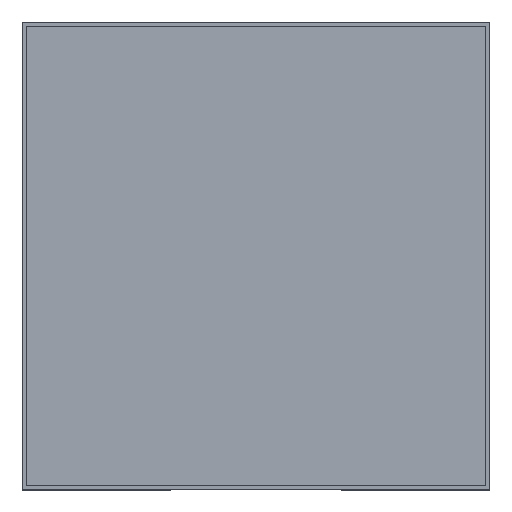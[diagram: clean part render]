
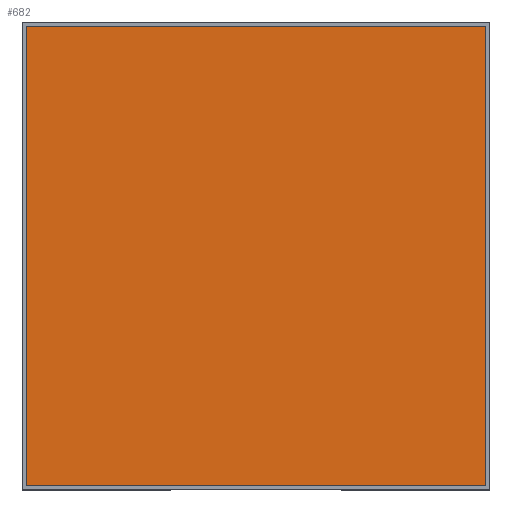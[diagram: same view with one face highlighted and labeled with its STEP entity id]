
A CAD part, top view. The second image highlights one B-rep face of the part: STEP entity #682.
In plain terms, the highlighted planar face has unit normal (0, 0, 1).
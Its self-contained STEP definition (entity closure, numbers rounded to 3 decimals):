
#368 = VERTEX_POINT('',#369);
#369 = CARTESIAN_POINT('',(-0.54,-0.54,0.33));
#376 = PLANE('',#377);
#377 = AXIS2_PLACEMENT_3D('',#378,#379,#380);
#378 = CARTESIAN_POINT('',(-0.54,-0.54,0.132));
#379 = DIRECTION('',(1.,0.,-0.));
#380 = DIRECTION('',(0.,0.,1.));
#388 = PLANE('',#389);
#389 = AXIS2_PLACEMENT_3D('',#390,#391,#392);
#390 = CARTESIAN_POINT('',(-0.54,-0.54,0.132));
#391 = DIRECTION('',(-0.,1.,0.));
#392 = DIRECTION('',(0.,0.,1.));
#429 = VERTEX_POINT('',#430);
#430 = CARTESIAN_POINT('',(-0.54,0.54,0.33));
#444 = PLANE('',#445);
#445 = AXIS2_PLACEMENT_3D('',#446,#447,#448);
#446 = CARTESIAN_POINT('',(-0.54,0.54,0.132));
#447 = DIRECTION('',(-0.,1.,0.));
#448 = DIRECTION('',(0.,0.,1.));
#456 = EDGE_CURVE('',#368,#429,#457,.T.);
#457 = SURFACE_CURVE('',#458,(#462,#469),.PCURVE_S1.);
#458 = LINE('',#459,#460);
#459 = CARTESIAN_POINT('',(-0.54,-0.54,0.33));
#460 = VECTOR('',#461,1.);
#461 = DIRECTION('',(-0.,1.,0.));
#462 = PCURVE('',#376,#463);
#463 = DEFINITIONAL_REPRESENTATION('',(#464),#468);
#464 = LINE('',#465,#466);
#465 = CARTESIAN_POINT('',(0.198,0.));
#466 = VECTOR('',#467,1.);
#467 = DIRECTION('',(0.,-1.));
#468 = ( GEOMETRIC_REPRESENTATION_CONTEXT(2) 
PARAMETRIC_REPRESENTATION_CONTEXT() REPRESENTATION_CONTEXT('2D SPACE',''
  ) );
#469 = PCURVE('',#470,#475);
#470 = PLANE('',#471);
#471 = AXIS2_PLACEMENT_3D('',#472,#473,#474);
#472 = CARTESIAN_POINT('',(-0.54,-0.54,0.33));
#473 = DIRECTION('',(0.,0.,1.));
#474 = DIRECTION('',(1.,0.,-0.));
#475 = DEFINITIONAL_REPRESENTATION('',(#476),#480);
#476 = LINE('',#477,#478);
#477 = CARTESIAN_POINT('',(0.,0.));
#478 = VECTOR('',#479,1.);
#479 = DIRECTION('',(0.,1.));
#480 = ( GEOMETRIC_REPRESENTATION_CONTEXT(2) 
PARAMETRIC_REPRESENTATION_CONTEXT() REPRESENTATION_CONTEXT('2D SPACE',''
  ) );
#488 = VERTEX_POINT('',#489);
#489 = CARTESIAN_POINT('',(0.54,-0.54,0.33));
#496 = PLANE('',#497);
#497 = AXIS2_PLACEMENT_3D('',#498,#499,#500);
#498 = CARTESIAN_POINT('',(0.54,-0.54,0.132));
#499 = DIRECTION('',(1.,0.,-0.));
#500 = DIRECTION('',(0.,0.,1.));
#539 = VERTEX_POINT('',#540);
#540 = CARTESIAN_POINT('',(0.54,0.54,0.33));
#561 = EDGE_CURVE('',#488,#539,#562,.T.);
#562 = SURFACE_CURVE('',#563,(#567,#574),.PCURVE_S1.);
#563 = LINE('',#564,#565);
#564 = CARTESIAN_POINT('',(0.54,-0.54,0.33));
#565 = VECTOR('',#566,1.);
#566 = DIRECTION('',(-0.,1.,0.));
#567 = PCURVE('',#496,#568);
#568 = DEFINITIONAL_REPRESENTATION('',(#569),#573);
#569 = LINE('',#570,#571);
#570 = CARTESIAN_POINT('',(0.198,0.));
#571 = VECTOR('',#572,1.);
#572 = DIRECTION('',(0.,-1.));
#573 = ( GEOMETRIC_REPRESENTATION_CONTEXT(2) 
PARAMETRIC_REPRESENTATION_CONTEXT() REPRESENTATION_CONTEXT('2D SPACE',''
  ) );
#574 = PCURVE('',#470,#575);
#575 = DEFINITIONAL_REPRESENTATION('',(#576),#580);
#576 = LINE('',#577,#578);
#577 = CARTESIAN_POINT('',(1.08,0.));
#578 = VECTOR('',#579,1.);
#579 = DIRECTION('',(0.,1.));
#580 = ( GEOMETRIC_REPRESENTATION_CONTEXT(2) 
PARAMETRIC_REPRESENTATION_CONTEXT() REPRESENTATION_CONTEXT('2D SPACE',''
  ) );
#607 = EDGE_CURVE('',#368,#488,#608,.T.);
#608 = SURFACE_CURVE('',#609,(#613,#620),.PCURVE_S1.);
#609 = LINE('',#610,#611);
#610 = CARTESIAN_POINT('',(-0.54,-0.54,0.33));
#611 = VECTOR('',#612,1.);
#612 = DIRECTION('',(1.,0.,-0.));
#613 = PCURVE('',#388,#614);
#614 = DEFINITIONAL_REPRESENTATION('',(#615),#619);
#615 = LINE('',#616,#617);
#616 = CARTESIAN_POINT('',(0.198,0.));
#617 = VECTOR('',#618,1.);
#618 = DIRECTION('',(0.,1.));
#619 = ( GEOMETRIC_REPRESENTATION_CONTEXT(2) 
PARAMETRIC_REPRESENTATION_CONTEXT() REPRESENTATION_CONTEXT('2D SPACE',''
  ) );
#620 = PCURVE('',#470,#621);
#621 = DEFINITIONAL_REPRESENTATION('',(#622),#626);
#622 = LINE('',#623,#624);
#623 = CARTESIAN_POINT('',(0.,0.));
#624 = VECTOR('',#625,1.);
#625 = DIRECTION('',(1.,0.));
#626 = ( GEOMETRIC_REPRESENTATION_CONTEXT(2) 
PARAMETRIC_REPRESENTATION_CONTEXT() REPRESENTATION_CONTEXT('2D SPACE',''
  ) );
#654 = EDGE_CURVE('',#429,#539,#655,.T.);
#655 = SURFACE_CURVE('',#656,(#660,#667),.PCURVE_S1.);
#656 = LINE('',#657,#658);
#657 = CARTESIAN_POINT('',(-0.54,0.54,0.33));
#658 = VECTOR('',#659,1.);
#659 = DIRECTION('',(1.,0.,-0.));
#660 = PCURVE('',#444,#661);
#661 = DEFINITIONAL_REPRESENTATION('',(#662),#666);
#662 = LINE('',#663,#664);
#663 = CARTESIAN_POINT('',(0.198,0.));
#664 = VECTOR('',#665,1.);
#665 = DIRECTION('',(0.,1.));
#666 = ( GEOMETRIC_REPRESENTATION_CONTEXT(2) 
PARAMETRIC_REPRESENTATION_CONTEXT() REPRESENTATION_CONTEXT('2D SPACE',''
  ) );
#667 = PCURVE('',#470,#668);
#668 = DEFINITIONAL_REPRESENTATION('',(#669),#673);
#669 = LINE('',#670,#671);
#670 = CARTESIAN_POINT('',(0.,1.08));
#671 = VECTOR('',#672,1.);
#672 = DIRECTION('',(1.,0.));
#673 = ( GEOMETRIC_REPRESENTATION_CONTEXT(2) 
PARAMETRIC_REPRESENTATION_CONTEXT() REPRESENTATION_CONTEXT('2D SPACE',''
  ) );
#682 = ADVANCED_FACE('',(#683),#470,.T.);
#683 = FACE_BOUND('',#684,.T.);
#684 = EDGE_LOOP('',(#685,#686,#687,#688));
#685 = ORIENTED_EDGE('',*,*,#456,.F.);
#686 = ORIENTED_EDGE('',*,*,#607,.T.);
#687 = ORIENTED_EDGE('',*,*,#561,.T.);
#688 = ORIENTED_EDGE('',*,*,#654,.F.);
